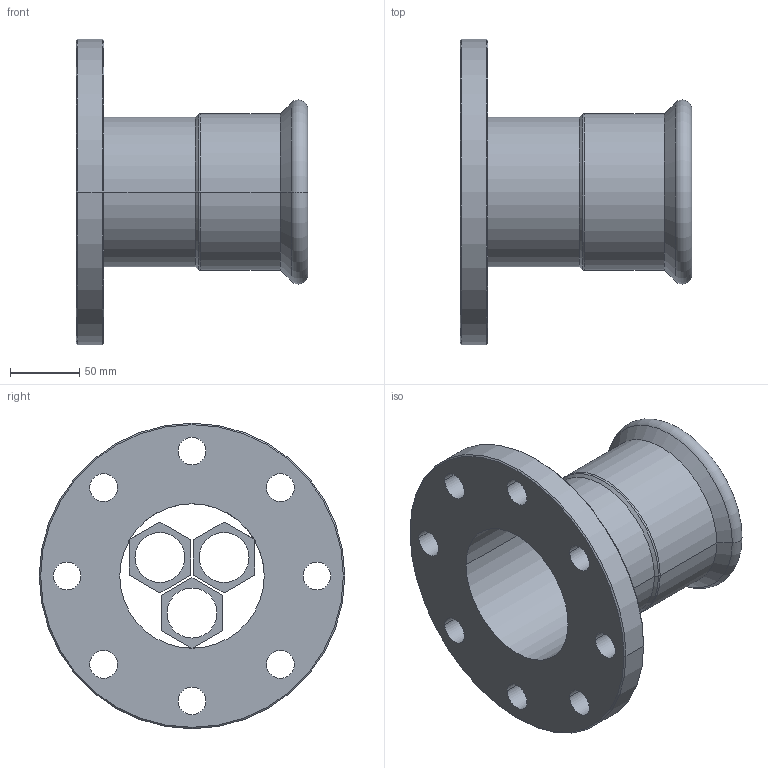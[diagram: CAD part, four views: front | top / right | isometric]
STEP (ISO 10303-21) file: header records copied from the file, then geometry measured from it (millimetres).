
FILE_DESCRIPTION(('OneSpaceDesigner STEP Export'),'2;1');
FILE_NAME('R2726 108.stp','2010-06-10T13:15:26',(''),(''),'OneSpace Designer STEP processor for AP214 (Solid Model)','OneSpace Modeling 15.00A 14-Mar-2007 (C) CoCreate Software GmbH','');
FILE_SCHEMA(('AUTOMOTIVE_DESIGN { 1 0 10303 214 1 1 1 1 }'));
Length unit declared in the file: millimetre
Products named in the file (2): R2726_108
Assembly tree (1 placements, depth 2):
  R2726_108
    R2726_108
Bounding box: 167 x 220 x 220 mm (x, y, z)
Volume: 701506.7 mm3; surface area: 197426.1 mm2
Topology: 1 solids, 1 shells, 81 faces, 206 edges, 133 vertices
Faces by surface type: cylinder 37, plane 32, cone 8, torus 4
Entity records: 2164 total; most frequent: ORIENTED_EDGE 412, CARTESIAN_POINT 342, DIRECTION 307, EDGE_CURVE 206, VERTEX_POINT 133, VECTOR 111, LINE 111, EDGE_LOOP 111
